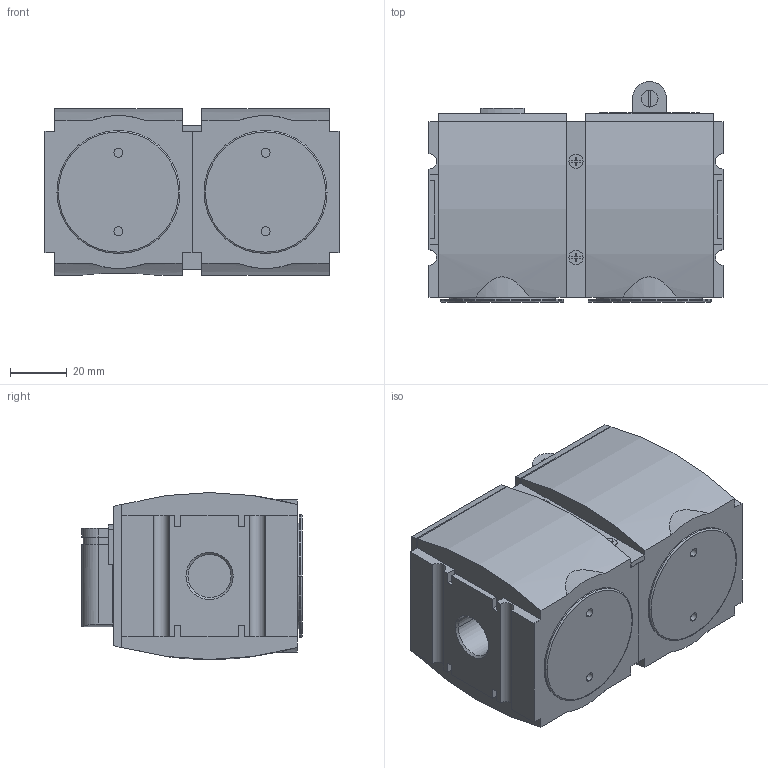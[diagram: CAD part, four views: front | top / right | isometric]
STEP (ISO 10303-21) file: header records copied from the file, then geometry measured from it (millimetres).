
FILE_DESCRIPTION((''),'2;1');
FILE_NAME('R412006282_ASM','2016-06-14T',('prr2cob'),(''),'PRO/ENGINEER BY PARAMETRIC TECHNOLOGY CORPORATION, 2012421','PRO/ENGINEER BY PARAMETRIC TECHNOLOGY CORPORATION, 2012421','');
FILE_SCHEMA(('CONFIG_CONTROL_DESIGN','SHAPE_APPEARANCE_LAYERS_GROUPS'));
Length unit declared in the file: millimetre
Products named in the file (4): R412006268; R412006371; R412006273; R412006282_ASM
Assembly tree (3 placements, depth 2):
  R412006282_ASM
    R412006268
    R412006371
    R412006273
Bounding box: 104 x 78 x 59 mm (x, y, z)
Volume: 355941.1 mm3; surface area: 55083.1 mm2
Topology: 3 solids, 3 shells, 307 faces, 778 edges, 510 vertices
Faces by surface type: plane 212, cylinder 77, cone 12, torus 6
Entity records: 9621 total; most frequent: CARTESIAN_POINT 1919, DIRECTION 1585, ORIENTED_EDGE 1556, EDGE_CURVE 778, VECTOR 585, LINE 585, VERTEX_POINT 510, AXIS2_PLACEMENT_3D 500
